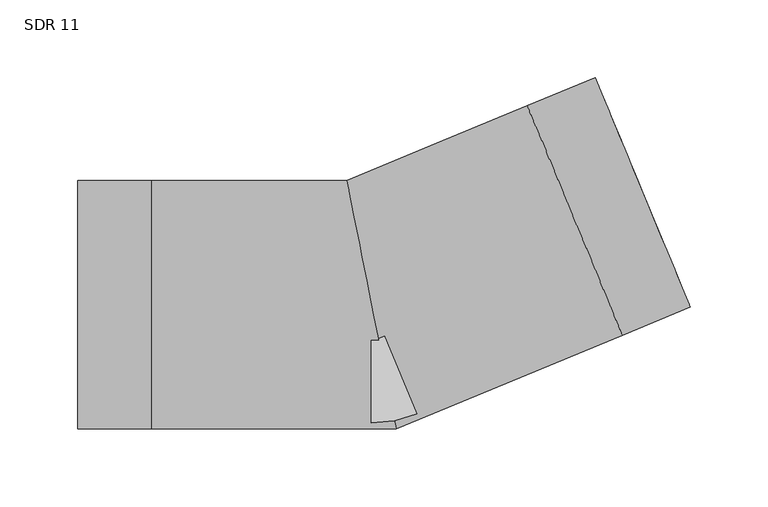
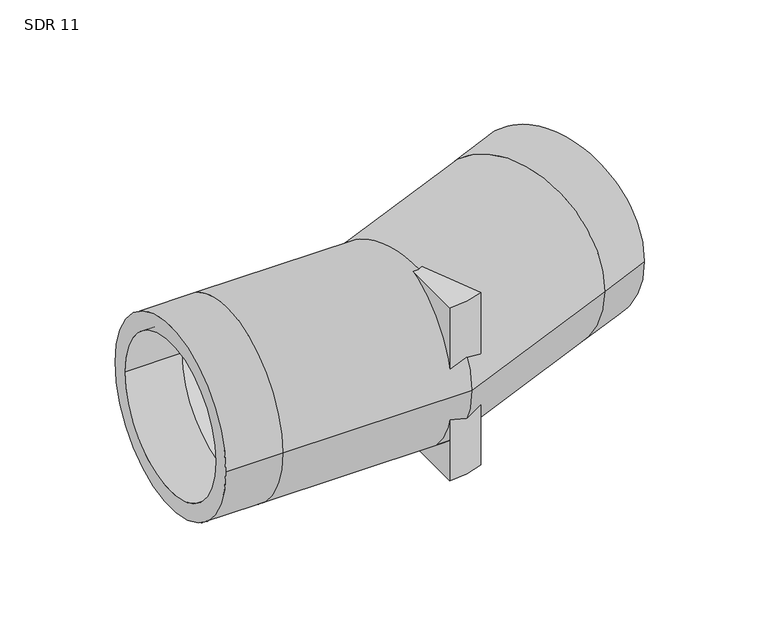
"""IFC4 building model written with IfcOpenShell, lengths in millimetres: pipe fitting geometry, Aquatherm - Elbow Blue BW Segmented : SDR 11."""

from ifc_helpers import new_model, si_unit, point, frame, origin, origin_with_axes, origin_2d, place, context, project, spatial, polyline, circle_curve, ellipse_curve, trimmed, segment, composite_curve, outline, extrude, source, transform, mapped, element, save
from ifc_brep_helpers import plane_surface, cylinder_surface, revolved_surface, advanced_brep


def sdr_11_1944e9c6(model_context):
    return source(origin(), model_context, "Body", "SolidModel", [
        extrude(outline(composite_curve([segment(polyline([(0.0, -76.2), (0.0, 0.0), (29.1604775, -70.3996204)]), True, "CONTINUOUS"), segment(trimmed(circle_curve(origin_2d(), 76.2), [point((29.1604775, -70.3996204))], [point((0.0, -76.2))], False, "CARTESIAN"), True, "CONTINUOUS")], self_intersect=False)), frame((0.0, 0.0, -76.2), z_axis=(0.0, 0.0, 1.0), x_axis=(1.0, 0.0, 0.0)), (0.0, 0.0, 1.0), 76.2),
        extrude(outline(composite_curve([segment(trimmed(circle_curve(origin_2d(), 76.2), [point((29.1604775, -70.3996204))], [point((0.0, -76.2))], False, "CARTESIAN"), True, "CONTINUOUS"), segment(polyline([(0.0, -76.2), (0.0, 0.0), (29.1604775, -70.3996204)]), True, "CONTINUOUS")], self_intersect=False)), origin_with_axes(), (0.0, 0.0, 1.0), 76.2),
        advanced_brep(
        [(-188.976, -80.01, 0.0), (-188.976, 80.01, 0.0), (-188.976, -65.4627273, 0.0), (-188.976, 65.4627273, 0.0), (205.20956, -1.6016171, 0.0), (143.9725571, 146.2375857, 0.0), (199.6425597, 11.8383104, 0.0), (149.5395574, 132.7976582, 0.0), (-141.732, -80.01, 0.0), (-141.732, 80.01, 0.0), (-141.732, -65.4627273, 0.0), (-141.732, 65.4627273, 0.0), (15.9149785, -80.01, 0.0), (-15.9149785, 80.01, 0.0), (13.0213461, -65.4627273, 0.0), (-13.0213461, 65.4627273, 0.0), (161.5617953, -19.6811132, 0.0), (100.3247925, 128.1580896, 0.0), (155.9947951, -6.2411856, 0.0), (105.8917927, 114.7181621, 0.0)],
        [
            (0, 1, circle_curve(frame((-188.976, 0.0, 0.0), z_axis=(-1.0, 0.0, 0.0), x_axis=(0.0, 1.0, 0.0)), 80.01)),
            (1, 0, circle_curve(frame((-188.976, 0.0, 0.0), z_axis=(-1.0, 0.0, 0.0), x_axis=(0.0, 1.0, 0.0)), 80.01)),
            (2, 3, circle_curve(frame((-188.976, 0.0, 0.0), z_axis=(1.0, 0.0, 0.0), x_axis=(0.0, 1.0, 0.0)), 65.4627273)),
            (3, 2, circle_curve(frame((-188.976, 0.0, 0.0), z_axis=(1.0, 0.0, 0.0), x_axis=(0.0, 1.0, 0.0)), 65.4627273)),
            (4, 5, circle_curve(frame((174.5910585, 72.3179843, 0.0), z_axis=(0.9238795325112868, 0.3826834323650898, 0.0), x_axis=(-0.3826834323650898, 0.9238795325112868, 0.0)), 80.01)),
            (5, 4, circle_curve(frame((174.5910585, 72.3179843, 0.0), z_axis=(0.9238795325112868, 0.3826834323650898, 0.0), x_axis=(-0.3826834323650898, 0.9238795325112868, 0.0)), 80.01)),
            (6, 7, circle_curve(frame((174.5910585, 72.3179843, 0.0), z_axis=(-0.9238795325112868, -0.3826834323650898, 0.0), x_axis=(-0.3826834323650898, 0.9238795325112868, 0.0)), 65.4627273)),
            (7, 6, circle_curve(frame((174.5910585, 72.3179843, 0.0), z_axis=(-0.9238795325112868, -0.3826834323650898, 0.0), x_axis=(-0.3826834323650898, 0.9238795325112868, 0.0)), 65.4627273)),
            (0, 8),
            (8, 9, circle_curve(frame((-141.732, 0.0, 0.0), z_axis=(-1.0, 0.0, 0.0), x_axis=(0.0, 1.0, 0.0)), 80.01)),
            (9, 1),
            (9, 8, circle_curve(frame((-141.732, 0.0, 0.0), z_axis=(-1.0, 0.0, 0.0), x_axis=(0.0, 1.0, 0.0)), 80.01)),
            (2, 10),
            (10, 11, circle_curve(frame((-141.732, 0.0, 0.0), z_axis=(1.0, 0.0, 0.0), x_axis=(0.0, 1.0, 0.0)), 65.4627273)),
            (11, 3),
            (11, 10, circle_curve(frame((-141.732, 0.0, 0.0), z_axis=(1.0, 0.0, 0.0), x_axis=(0.0, 1.0, 0.0)), 65.4627273)),
            (8, 12),
            (12, 13, ellipse_curve(frame((0.0, 0.0, 0.0), z_axis=(-0.9807852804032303, -0.19509032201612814, 0.0), x_axis=(-0.19509032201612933, 0.9807852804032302, 0.0)), 81.5774886, 80.01)),
            (13, 9),
            (13, 12, ellipse_curve(frame((0.0, 0.0, 0.0), z_axis=(-0.9807852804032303, -0.19509032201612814, 0.0), x_axis=(-0.19509032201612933, 0.9807852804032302, 0.0)), 81.5774886, 80.01)),
            (10, 14),
            (14, 15, ellipse_curve(frame((0.0, 0.0, 0.0), z_axis=(0.9807852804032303, 0.19509032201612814, 0.0), x_axis=(0.19509032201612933, -0.9807852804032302, 0.0)), 66.7452179, 65.4627273)),
            (15, 11),
            (15, 14, ellipse_curve(frame((0.0, 0.0, 0.0), z_axis=(0.9807852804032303, 0.19509032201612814, 0.0), x_axis=(0.19509032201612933, -0.9807852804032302, 0.0)), 66.7452179, 65.4627273)),
            (12, 16),
            (16, 17, circle_curve(frame((130.9432939, 54.2384882, 0.0), z_axis=(-0.9238795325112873, -0.3826834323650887, 0.0), x_axis=(-0.3826834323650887, 0.9238795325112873, 0.0)), 80.01)),
            (17, 13),
            (17, 16, circle_curve(frame((130.9432939, 54.2384882, 0.0), z_axis=(-0.9238795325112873, -0.3826834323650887, 0.0), x_axis=(-0.3826834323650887, 0.9238795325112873, 0.0)), 80.01)),
            (14, 18),
            (18, 19, circle_curve(frame((130.9432939, 54.2384882, 0.0), z_axis=(0.9238795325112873, 0.3826834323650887, 0.0), x_axis=(-0.3826834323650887, 0.9238795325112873, 0.0)), 65.4627273)),
            (19, 15),
            (19, 18, circle_curve(frame((130.9432939, 54.2384882, 0.0), z_axis=(0.9238795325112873, 0.3826834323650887, 0.0), x_axis=(-0.3826834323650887, 0.9238795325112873, 0.0)), 65.4627273)),
            (16, 4),
            (5, 17),
            (18, 6),
            (7, 19),
        ],
        [
            plane_surface(frame((-188.976, 0.0, 0.0), z_axis=(-1.0, 0.0, 0.0), x_axis=(0.0, 0.0, 1.0))),
            plane_surface(frame((174.5910585, 72.3179843, 0.0), z_axis=(0.9238795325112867, 0.38268343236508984, 0.0), x_axis=(0.0, 0.0, 1.0))),
            cylinder_surface(frame((-188.976, 0.0, 0.0), z_axis=(-1.0, 0.0, 0.0), x_axis=(0.0, 1.0, 0.0)), 80.01),
            revolved_surface(polyline([(-141.732, 65.4627273, 0.0), (-188.976, 65.4627273, 0.0)]), (-188.976, 0.0, 0.0), (1.0, 0.0, 0.0)),
            cylinder_surface(frame((-141.732, 0.0, 0.0), z_axis=(-1.0, 0.0, 0.0), x_axis=(0.0, 1.0, 0.0)), 80.01),
            revolved_surface(polyline([(13.021346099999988, 65.4627273, 0.0), (-141.732, 65.4627273, 0.0)]), (-141.732, 0.0, 0.0), (1.0, 0.0, 0.0)),
            cylinder_surface(frame((0.0, 0.0, 0.0), z_axis=(-0.9238795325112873, -0.3826834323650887, 0.0), x_axis=(-0.3826834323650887, 0.9238795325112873, 0.0)), 80.01),
            revolved_surface(polyline([(105.89179276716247, 114.7181621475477, 0.0), (-37.08165627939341, 55.496620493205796, 0.0)]), (0.0, 0.0, 0.0), (0.9238795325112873, 0.3826834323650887, 0.0)),
            cylinder_surface(frame((130.9432939, 54.2384882, 0.0), z_axis=(-0.9238795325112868, -0.3826834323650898, 0.0), x_axis=(-0.3826834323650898, 0.9238795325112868, 0.0)), 80.01),
            revolved_surface(polyline([(149.5395574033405, 132.7976581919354, 0.0), (105.89179270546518, 114.71816208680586, 0.0)]), (130.9432939, 54.2384882, 0.0), (0.9238795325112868, 0.3826834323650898, 0.0)),
        ],
        [
            (0, [[1, 2], [3, 4]]),
            (1, [[5, 6], [7, 8]]),
            (2, [[-1, 9, 10, 11]]),
            (2, [[-2, -11, 12, -9]]),
            (3, [[-3, 13, 14, 15]]),
            (3, [[-4, -15, 16, -13]]),
            (4, [[-10, 17, 18, 19]]),
            (4, [[-12, -19, 20, -17]]),
            (5, [[-14, 21, 22, 23]]),
            (5, [[-16, -23, 24, -21]]),
            (6, [[-18, 25, 26, 27]]),
            (6, [[-20, -27, 28, -25]]),
            (7, [[-22, 29, 30, 31]]),
            (7, [[-24, -31, 32, -29]]),
            (8, [[-26, 33, -6, 34]]),
            (8, [[-28, -34, -5, -33]]),
            (9, [[-30, 35, -8, 36]]),
            (9, [[-32, -36, -7, -35]]),
        ],
    ),
    ])


if __name__ == "__main__":
    model = new_model("IFC4")
    model_context = context("Model", 3, world=origin())
    ifc_project = project(units=[si_unit("LENGTHUNIT", "METRE", prefix="MILLI")], contexts=[model_context])
    site = spatial("IfcSite", under=ifc_project)
    building = spatial("IfcBuilding", under=site)
    placement = place(None, origin())
    sdr_11_shape = sdr_11_1944e9c6(model_context)
    element("IfcPipeFitting", 1, ObjectType="Aquatherm - Elbow Blue BW Segmented : SDR 11", at=placement, inside=building, context=model_context, shape_type="MappedRepresentation", body=[
        mapped(sdr_11_shape, transform((0.0, 0.0, 0.0), x_axis=(1.0, 0.0, 0.0), y_axis=(0.0, 1.0, 0.0), z_axis=(0.0, 0.0, 1.0))),
    ])
    save(model, "model.ifc")
